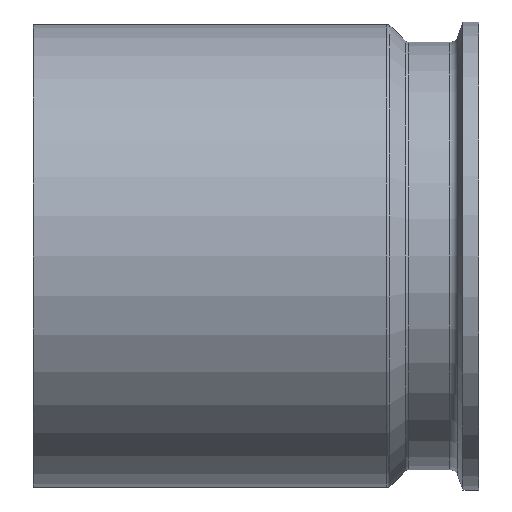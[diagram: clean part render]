
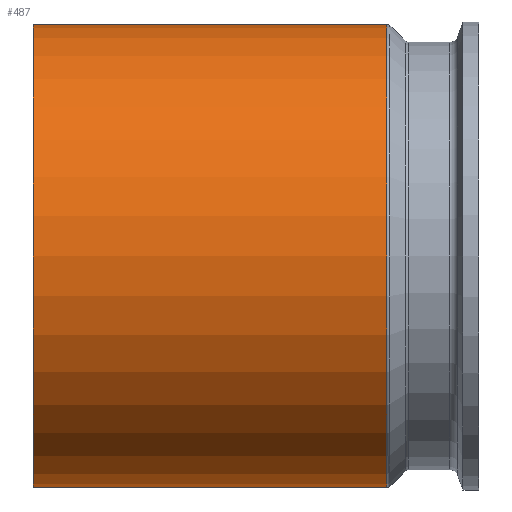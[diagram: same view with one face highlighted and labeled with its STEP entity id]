
A CAD part, left-side view. The second image highlights one B-rep face of the part: STEP entity #487.
In plain terms, the highlighted cylindrical face has radius 82.55 mm (diameter 165.1 mm), a partial arc.
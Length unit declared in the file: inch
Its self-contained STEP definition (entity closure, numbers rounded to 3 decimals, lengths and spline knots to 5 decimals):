
#6 = AXIS2_PLACEMENT_3D ( 'NONE', #191, #780, #835 ) ;
#14 = CARTESIAN_POINT ( 'NONE',  ( 0., 6.25, -3.25 ) ) ;
#102 = AXIS2_PLACEMENT_3D ( 'NONE', #474, #668, #325 ) ;
#132 = EDGE_LOOP ( 'NONE', ( #200, #803, #321, #623 ) ) ;
#145 = VERTEX_POINT ( 'NONE', #14 ) ;
#149 = EDGE_CURVE ( 'NONE', #524, #427, #476, .T. ) ;
#153 = CIRCLE ( 'NONE', #610, 3.25 ) ;
#160 = LINE ( 'NONE', #162, #771 ) ;
#162 = CARTESIAN_POINT ( 'NONE',  ( 0., 0., 3.25 ) ) ;
#191 = CARTESIAN_POINT ( 'NONE',  ( 0., 0., 0. ) ) ;
#200 = ORIENTED_EDGE ( 'NONE', *, *, #711, .F. ) ;
#255 = CARTESIAN_POINT ( 'NONE',  ( 0., 1.28658, 3.25 ) ) ;
#258 = DIRECTION ( 'NONE',  ( 0., 0., -1. ) ) ;
#283 = DIRECTION ( 'NONE',  ( 0., -1., 0. ) ) ;
#321 = ORIENTED_EDGE ( 'NONE', *, *, #362, .T. ) ;
#325 = DIRECTION ( 'NONE',  ( 0., 0., 1. ) ) ;
#362 = EDGE_CURVE ( 'NONE', #145, #524, #436, .T. ) ;
#422 = CARTESIAN_POINT ( 'NONE',  ( 0., 6.25, 3.25 ) ) ;
#427 = VERTEX_POINT ( 'NONE', #255 ) ;
#436 = LINE ( 'NONE', #697, #592 ) ;
#474 = CARTESIAN_POINT ( 'NONE',  ( 0., 1.28658, 0. ) ) ;
#476 = CIRCLE ( 'NONE', #102, 3.25 ) ;
#487 = ADVANCED_FACE ( 'NONE', ( #584 ), #699, .T. ) ;
#524 = VERTEX_POINT ( 'NONE', #840 ) ;
#584 = FACE_OUTER_BOUND ( 'NONE', #132, .T. ) ;
#592 = VECTOR ( 'NONE', #824, 39.37008 ) ;
#610 = AXIS2_PLACEMENT_3D ( 'NONE', #736, #611, #258 ) ;
#611 = DIRECTION ( 'NONE',  ( 0., -1., 0. ) ) ;
#623 = ORIENTED_EDGE ( 'NONE', *, *, #149, .T. ) ;
#633 = EDGE_CURVE ( 'NONE', #683, #145, #153, .T. ) ;
#668 = DIRECTION ( 'NONE',  ( 0., 1., 0. ) ) ;
#683 = VERTEX_POINT ( 'NONE', #422 ) ;
#697 = CARTESIAN_POINT ( 'NONE',  ( 0., 0., -3.25 ) ) ;
#699 = CYLINDRICAL_SURFACE ( 'NONE', #6, 3.25 ) ;
#711 = EDGE_CURVE ( 'NONE', #683, #427, #160, .T. ) ;
#736 = CARTESIAN_POINT ( 'NONE',  ( 0., 6.25, 0. ) ) ;
#771 = VECTOR ( 'NONE', #283, 39.37008 ) ;
#780 = DIRECTION ( 'NONE',  ( 0., -1., 0. ) ) ;
#803 = ORIENTED_EDGE ( 'NONE', *, *, #633, .T. ) ;
#824 = DIRECTION ( 'NONE',  ( 0., -1., 0. ) ) ;
#835 = DIRECTION ( 'NONE',  ( 0., 0., -1. ) ) ;
#840 = CARTESIAN_POINT ( 'NONE',  ( 0., 1.28658, -3.25 ) ) ;
